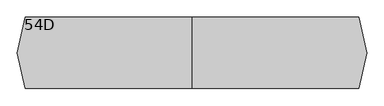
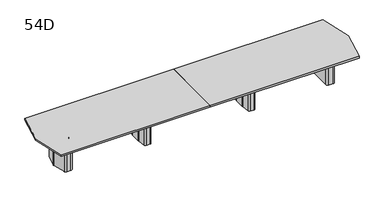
"""IFC4 building model written with IfcOpenShell, lengths in millimetres: furniture geometry, Coalesse_AM_Table_Conference_ETable2_Faceted_22ft_FourBase : 54D."""

from ifc_helpers import new_model, si_unit, frame, origin, place, context, project, spatial, polyline, circle_curve, outline, extrude, source, transform, mapped, element, save
from ifc_brep_helpers import plane_surface, cylinder_surface, revolved_surface, advanced_brep


def furniture_54d_4388903f(model_context):
    return source(origin(), model_context, "Body", "SolidModel", [
        advanced_brep(
        [(1153.31875, 206.375, 3.175), (1127.91875, 231.775, 3.175), (1107.28125, 231.775, 3.175), (1081.88125, 206.375, 3.175), (1081.88125, -206.375, 3.175), (1107.28125, -231.775, 3.175), (1127.91875, -231.775, 3.175), (1153.31875, -206.375, 3.175), (1056.48125, 206.375, 0.0), (1107.28125, 257.175, 0.0), (1127.91875, 257.175, 0.0), (1178.71875, 206.375, 0.0), (1178.71875, -206.375, 0.0), (1127.91875, -257.175, 0.0), (1107.28125, -257.175, 0.0), (1056.48125, -206.375, 0.0), (1056.48125, -206.375, 3.175), (1056.48125, 206.375, 3.175), (1107.28125, -257.175, 3.175), (1127.91875, -257.175, 3.175), (1178.71875, -206.375, 3.175), (1178.71875, 206.375, 3.175), (1127.91875, 257.175, 3.175), (1107.28125, 257.175, 3.175), (1024.9784026, 106.2976848, 698.5), (1024.73125, 102.7629613, 698.5), (1024.73125, -102.7629613, 698.5), (1024.9784026, -106.2976848, 698.5), (1049.8011625, -282.9347235, 698.5), (1074.9540098, -304.8, 698.5), (1160.2459902, -304.8, 698.5), (1185.3988375, -282.9347235, 698.5), (1210.2215974, -106.2976848, 698.5), (1210.46875, -102.7629613, 698.5), (1210.46875, 102.7629613, 698.5), (1210.2215974, 106.2976848, 698.5), (1185.3988375, 282.9347235, 698.5), (1160.2459902, 304.8, 698.5), (1074.9540098, 304.8, 698.5), (1049.8011625, 282.9347235, 698.5), (1127.91875, 231.775, 698.5), (1153.31875, 206.375, 698.5), (1153.31875, -206.375, 698.5), (1127.91875, -231.775, 698.5), (1107.28125, -231.775, 698.5), (1081.88125, -206.375, 698.5), (1081.88125, 206.375, 698.5), (1107.28125, 231.775, 698.5), (1024.9784026, 106.2976848, 3.175), (1049.8011625, 282.9347235, 3.175), (1074.9540098, 304.8, 3.175), (1160.2459902, 304.8, 3.175), (1185.3988375, 282.9347235, 3.175), (1210.2215974, 106.2976848, 3.175), (1210.46875, 102.7629613, 3.175), (1210.46875, -102.7629613, 3.175), (1210.2215974, -106.2976848, 3.175), (1185.3988375, -282.9347235, 3.175), (1160.2459902, -304.8, 3.175), (1074.9540098, -304.8, 3.175), (1049.8011625, -282.9347235, 3.175), (1024.9784026, -106.2976848, 3.175), (1024.73125, -102.7629613, 3.175), (1024.73125, 102.7629613, 3.175)],
        [
            (0, 1, circle_curve(frame((1127.91875, 206.375, 3.175), z_axis=(0.0, 0.0, 1.0), x_axis=(1.0, 0.0, 0.0)), 25.4)),
            (1, 2),
            (2, 3, circle_curve(frame((1107.28125, 206.375, 3.175), z_axis=(0.0, 0.0, 1.0), x_axis=(1.0, 0.0, 0.0)), 25.4)),
            (3, 4),
            (4, 5, circle_curve(frame((1107.28125, -206.375, 3.175), z_axis=(0.0, 0.0, 1.0), x_axis=(1.0, 0.0, 0.0)), 25.4)),
            (5, 6),
            (6, 7, circle_curve(frame((1127.91875, -206.375, 3.175), z_axis=(0.0, 0.0, 1.0), x_axis=(1.0, 0.0, 0.0)), 25.4)),
            (7, 0),
            (8, 9, circle_curve(frame((1107.28125, 206.375, 0.0), z_axis=(0.0, 0.0, -1.0), x_axis=(1.0, 0.0, 0.0)), 50.8)),
            (9, 10),
            (10, 11, circle_curve(frame((1127.91875, 206.375, 0.0), z_axis=(0.0, 0.0, -1.0), x_axis=(1.0, 0.0, 0.0)), 50.8)),
            (11, 12),
            (12, 13, circle_curve(frame((1127.91875, -206.375, 0.0), z_axis=(0.0, 0.0, -1.0), x_axis=(1.0, 0.0, 0.0)), 50.8)),
            (13, 14),
            (14, 15, circle_curve(frame((1107.28125, -206.375, 0.0), z_axis=(0.0, 0.0, -1.0), x_axis=(1.0, 0.0, 0.0)), 50.8)),
            (15, 8),
            (15, 16),
            (16, 17),
            (17, 8),
            (14, 18),
            (18, 16, circle_curve(frame((1107.28125, -206.375, 3.175), z_axis=(0.0, 0.0, -1.0), x_axis=(1.0, 0.0, 0.0)), 50.8)),
            (13, 19),
            (19, 18),
            (12, 20),
            (20, 19, circle_curve(frame((1127.91875, -206.375, 3.175), z_axis=(0.0, 0.0, -1.0), x_axis=(1.0, 0.0, 0.0)), 50.8)),
            (11, 21),
            (21, 20),
            (10, 22),
            (22, 21, circle_curve(frame((1127.91875, 206.375, 3.175), z_axis=(0.0, 0.0, -1.0), x_axis=(1.0, 0.0, 0.0)), 50.8)),
            (9, 23),
            (23, 22),
            (17, 23, circle_curve(frame((1107.28125, 206.375, 3.175), z_axis=(0.0, 0.0, -1.0), x_axis=(1.0, 0.0, 0.0)), 50.8)),
            (24, 25, circle_curve(frame((1050.13125, 102.7629613, 698.5), z_axis=(0.0, 0.0, 1.0), x_axis=(1.0, 0.0, 0.0)), 25.4)),
            (25, 26),
            (26, 27, circle_curve(frame((1050.13125, -102.7629613, 698.5), z_axis=(0.0, 0.0, 1.0), x_axis=(1.0, 0.0, 0.0)), 25.4)),
            (27, 28),
            (28, 29, circle_curve(frame((1074.9540098, -279.4, 698.5), z_axis=(0.0, 0.0, 1.0), x_axis=(1.0, 0.0, 0.0)), 25.4)),
            (29, 30),
            (30, 31, circle_curve(frame((1160.2459902, -279.4, 698.5), z_axis=(0.0, 0.0, 1.0), x_axis=(1.0, 0.0, 0.0)), 25.4)),
            (31, 32),
            (32, 33, circle_curve(frame((1185.06875, -102.7629613, 698.5), z_axis=(0.0, 0.0, 1.0), x_axis=(1.0, 0.0, 0.0)), 25.4)),
            (33, 34),
            (34, 35, circle_curve(frame((1185.06875, 102.7629613, 698.5), z_axis=(0.0, 0.0, 1.0), x_axis=(1.0, 0.0, 0.0)), 25.4)),
            (35, 36),
            (36, 37, circle_curve(frame((1160.2459902, 279.4, 698.5), z_axis=(0.0, 0.0, 1.0), x_axis=(1.0, 0.0, 0.0)), 25.4)),
            (37, 38),
            (38, 39, circle_curve(frame((1074.9540098, 279.4, 698.5), z_axis=(0.0, 0.0, 1.0), x_axis=(1.0, 0.0, 0.0)), 25.4)),
            (39, 24),
            (40, 41, circle_curve(frame((1127.91875, 206.375, 698.5), z_axis=(0.0, 0.0, -1.0), x_axis=(1.0, 0.0, 0.0)), 25.4)),
            (41, 42),
            (42, 43, circle_curve(frame((1127.91875, -206.375, 698.5), z_axis=(0.0, 0.0, -1.0), x_axis=(1.0, 0.0, 0.0)), 25.4)),
            (43, 44),
            (44, 45, circle_curve(frame((1107.28125, -206.375, 698.5), z_axis=(0.0, 0.0, -1.0), x_axis=(1.0, 0.0, 0.0)), 25.4)),
            (45, 46),
            (46, 47, circle_curve(frame((1107.28125, 206.375, 698.5), z_axis=(0.0, 0.0, -1.0), x_axis=(1.0, 0.0, 0.0)), 25.4)),
            (47, 40),
            (48, 49),
            (49, 50, circle_curve(frame((1074.9540098, 279.4, 3.175), z_axis=(0.0, 0.0, -1.0), x_axis=(1.0, 0.0, 0.0)), 25.4)),
            (50, 51),
            (51, 52, circle_curve(frame((1160.2459902, 279.4, 3.175), z_axis=(0.0, 0.0, -1.0), x_axis=(1.0, 0.0, 0.0)), 25.4)),
            (52, 53),
            (53, 54, circle_curve(frame((1185.06875, 102.7629613, 3.175), z_axis=(0.0, 0.0, -1.0), x_axis=(1.0, 0.0, 0.0)), 25.4)),
            (54, 55),
            (55, 56, circle_curve(frame((1185.06875, -102.7629613, 3.175), z_axis=(0.0, 0.0, -1.0), x_axis=(1.0, 0.0, 0.0)), 25.4)),
            (56, 57),
            (57, 58, circle_curve(frame((1160.2459902, -279.4, 3.175), z_axis=(0.0, 0.0, -1.0), x_axis=(1.0, 0.0, 0.0)), 25.4)),
            (58, 59),
            (59, 60, circle_curve(frame((1074.9540098, -279.4, 3.175), z_axis=(0.0, 0.0, -1.0), x_axis=(1.0, 0.0, 0.0)), 25.4)),
            (60, 61),
            (61, 62, circle_curve(frame((1050.13125, -102.7629613, 3.175), z_axis=(0.0, 0.0, -1.0), x_axis=(1.0, 0.0, 0.0)), 25.4)),
            (62, 63),
            (63, 48, circle_curve(frame((1050.13125, 102.7629613, 3.175), z_axis=(0.0, 0.0, -1.0), x_axis=(1.0, 0.0, 0.0)), 25.4)),
            (24, 48),
            (63, 25),
            (62, 26),
            (61, 27),
            (60, 28),
            (59, 29),
            (58, 30),
            (57, 31),
            (56, 32),
            (55, 33),
            (54, 34),
            (53, 35),
            (52, 36),
            (51, 37),
            (50, 38),
            (49, 39),
            (40, 1),
            (0, 41),
            (7, 42),
            (6, 43),
            (5, 44),
            (4, 45),
            (3, 46),
            (2, 47),
        ],
        [
            plane_surface(frame((1056.48125, -206.375, 3.175), z_axis=(0.0, 0.0, 1.0), x_axis=(0.0, -1.0, 0.0))),
            plane_surface(frame((1056.48125, -206.375, 0.0), z_axis=(0.0, 0.0, -1.0), x_axis=(0.0, 1.0, 0.0))),
            plane_surface(frame((1056.48125, 206.375, 3.175), z_axis=(-1.0, 0.0, 0.0), x_axis=(0.0, 0.0, -1.0))),
            cylinder_surface(frame((1107.28125, -206.375, 0.0), z_axis=(0.0, 0.0, 1.0), x_axis=(1.0, 0.0, 0.0)), 50.8),
            plane_surface(frame((1107.28125, -257.175, 3.175), z_axis=(0.0, -1.0, 0.0), x_axis=(0.0, 0.0, -1.0))),
            cylinder_surface(frame((1127.91875, -206.375, 0.0), z_axis=(0.0, 0.0, 1.0), x_axis=(1.0, 0.0, 0.0)), 50.8),
            plane_surface(frame((1178.71875, -206.375, 3.175), z_axis=(1.0, 0.0, 0.0), x_axis=(0.0, 0.0, -1.0))),
            cylinder_surface(frame((1127.91875, 206.375, 0.0), z_axis=(0.0, 0.0, 1.0), x_axis=(1.0, 0.0, 0.0)), 50.8),
            plane_surface(frame((1127.91875, 257.175, 3.175), z_axis=(0.0, 1.0, 0.0), x_axis=(0.0, 0.0, -1.0))),
            cylinder_surface(frame((1107.28125, 206.375, 0.0), z_axis=(0.0, 0.0, 1.0), x_axis=(1.0, 0.0, 0.0)), 50.8),
            plane_surface(frame((1075.53125, 102.7629613, 698.5), z_axis=(0.0, 0.0, 1.0), x_axis=(0.0, 1.0, 0.0))),
            plane_surface(frame((1075.53125, 102.7629613, 3.175), z_axis=(0.0, 0.0, -1.0), x_axis=(0.0, -1.0, 0.0))),
            cylinder_surface(frame((1050.13125, 102.7629613, 3.175), z_axis=(0.0, 0.0, 1.0), x_axis=(1.0, 0.0, 0.0)), 25.4),
            plane_surface(frame((1024.73125, 102.7629613, 698.5), z_axis=(-1.0, 0.0, 0.0), x_axis=(0.0, 0.0, -1.0))),
            cylinder_surface(frame((1050.13125, -102.7629613, 3.175), z_axis=(0.0, 0.0, 1.0), x_axis=(1.0, 0.0, 0.0)), 25.4),
            plane_surface(frame((1024.9784026, -106.2976848, 698.5), z_axis=(-0.9902695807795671, -0.13916234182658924, 0.0), x_axis=(0.0, 0.0, -1.0))),
            cylinder_surface(frame((1074.9540098, -279.4, 3.175), z_axis=(0.0, 0.0, 1.0), x_axis=(1.0, 0.0, 0.0)), 25.4),
            plane_surface(frame((1074.9540098, -304.8, 698.5), z_axis=(0.0, -1.0, 0.0), x_axis=(0.0, 0.0, -1.0))),
            cylinder_surface(frame((1160.2459902, -279.4, 3.175), z_axis=(0.0, 0.0, 1.0), x_axis=(1.0, 0.0, 0.0)), 25.4),
            plane_surface(frame((1185.3988375, -282.9347235, 698.5), z_axis=(0.9902695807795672, -0.13916234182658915, 0.0), x_axis=(0.0, 0.0, -1.0))),
            cylinder_surface(frame((1185.06875, -102.7629613, 3.175), z_axis=(0.0, 0.0, 1.0), x_axis=(1.0, 0.0, 0.0)), 25.4),
            plane_surface(frame((1210.46875, -102.7629613, 698.5), z_axis=(1.0, 0.0, 0.0), x_axis=(0.0, 0.0, -1.0))),
            cylinder_surface(frame((1185.06875, 102.7629613, 3.175), z_axis=(0.0, 0.0, 1.0), x_axis=(1.0, 0.0, 0.0)), 25.4),
            plane_surface(frame((1210.2215974, 106.2976848, 698.5), z_axis=(0.9902695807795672, 0.1391623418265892, 0.0), x_axis=(0.0, 0.0, -1.0))),
            cylinder_surface(frame((1160.2459902, 279.4, 3.175), z_axis=(0.0, 0.0, 1.0), x_axis=(1.0, 0.0, 0.0)), 25.4),
            plane_surface(frame((1160.2459902, 304.8, 698.5), z_axis=(0.0, 1.0, 0.0), x_axis=(0.0, 0.0, -1.0))),
            cylinder_surface(frame((1074.9540098, 279.4, 3.175), z_axis=(0.0, 0.0, 1.0), x_axis=(1.0, 0.0, 0.0)), 25.4),
            plane_surface(frame((1049.8011625, 282.9347235, 698.5), z_axis=(-0.9902695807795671, 0.13916234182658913, 0.0), x_axis=(0.0, 0.0, -1.0))),
            revolved_surface(polyline([(1153.3187500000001, 206.375, 3.175), (1153.3187500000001, 206.375, 698.5)]), (1127.91875, 206.375, 0.0), (0.0, 0.0, -1.0)),
            plane_surface(frame((1153.31875, 206.375, 698.5), z_axis=(-1.0, 0.0, 0.0), x_axis=(0.0, 0.0, -1.0))),
            revolved_surface(polyline([(1153.3187500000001, -206.375, 3.175), (1153.3187500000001, -206.375, 698.5)]), (1127.91875, -206.375, 0.0), (0.0, 0.0, -1.0)),
            plane_surface(frame((1127.91875, -231.775, 698.5), z_axis=(0.0, 1.0, 0.0), x_axis=(0.0, 0.0, -1.0))),
            revolved_surface(polyline([(1132.68125, -206.375, 3.175), (1132.68125, -206.375, 698.5)]), (1107.28125, -206.375, 0.0), (0.0, 0.0, -1.0)),
            plane_surface(frame((1081.88125, -206.375, 698.5), z_axis=(1.0, 0.0, 0.0), x_axis=(0.0, 0.0, -1.0))),
            revolved_surface(polyline([(1132.68125, 206.375, 3.175), (1132.68125, 206.375, 698.5)]), (1107.28125, 206.375, 0.0), (0.0, 0.0, -1.0)),
            plane_surface(frame((1107.28125, 231.775, 698.5), z_axis=(0.0, -1.0, 0.0), x_axis=(0.0, 0.0, -1.0))),
        ],
        [
            (0, [[1, 2, 3, 4, 5, 6, 7, 8]]),
            (1, [[9, 10, 11, 12, 13, 14, 15, 16]]),
            (2, [[-16, 17, 18, 19]]),
            (3, [[-15, 20, 21, -17]]),
            (4, [[-14, 22, 23, -20]]),
            (5, [[-13, 24, 25, -22]]),
            (6, [[-12, 26, 27, -24]]),
            (7, [[-11, 28, 29, -26]]),
            (8, [[-10, 30, 31, -28]]),
            (9, [[-9, -19, 32, -30]]),
            (10, [[33, 34, 35, 36, 37, 38, 39, 40, 41, 42, 43, 44, 45, 46, 47, 48], [49, 50, 51, 52, 53, 54, 55, 56]]),
            (11, [[57, 58, 59, 60, 61, 62, 63, 64, 65, 66, 67, 68, 69, 70, 71, 72], [-18, -21, -23, -25, -27, -29, -31, -32]]),
            (12, [[-33, 73, -72, 74]]),
            (13, [[-34, -74, -71, 75]]),
            (14, [[-35, -75, -70, 76]]),
            (15, [[-36, -76, -69, 77]]),
            (16, [[-37, -77, -68, 78]]),
            (17, [[-38, -78, -67, 79]]),
            (18, [[-39, -79, -66, 80]]),
            (19, [[-40, -80, -65, 81]]),
            (20, [[-41, -81, -64, 82]]),
            (21, [[-42, -82, -63, 83]]),
            (22, [[-43, -83, -62, 84]]),
            (23, [[-44, -84, -61, 85]]),
            (24, [[-45, -85, -60, 86]]),
            (25, [[-46, -86, -59, 87]]),
            (26, [[-47, -87, -58, 88]]),
            (27, [[-48, -88, -57, -73]]),
            (28, [[-49, 89, -1, 90]]),
            (29, [[-50, -90, -8, 91]]),
            (30, [[-51, -91, -7, 92]]),
            (31, [[-52, -92, -6, 93]]),
            (32, [[-53, -93, -5, 94]]),
            (33, [[-54, -94, -4, 95]]),
            (34, [[-55, -95, -3, 96]]),
            (35, [[-56, -96, -2, -89]]),
        ],
    ),
        advanced_brep(
        [(-1081.88125, 206.375, 3.175), (-1107.28125, 231.775, 3.175), (-1127.91875, 231.775, 3.175), (-1153.31875, 206.375, 3.175), (-1153.31875, -206.375, 3.175), (-1127.91875, -231.775, 3.175), (-1107.28125, -231.775, 3.175), (-1081.88125, -206.375, 3.175), (-1178.71875, 206.375, 0.0), (-1127.91875, 257.175, 0.0), (-1107.28125, 257.175, 0.0), (-1056.48125, 206.375, 0.0), (-1056.48125, -206.375, 0.0), (-1107.28125, -257.175, 0.0), (-1127.91875, -257.175, 0.0), (-1178.71875, -206.375, 0.0), (-1178.71875, -206.375, 3.175), (-1178.71875, 206.375, 3.175), (-1127.91875, -257.175, 3.175), (-1107.28125, -257.175, 3.175), (-1056.48125, -206.375, 3.175), (-1056.48125, 206.375, 3.175), (-1107.28125, 257.175, 3.175), (-1127.91875, 257.175, 3.175), (-1210.2215974, 106.2976848, 698.5), (-1210.46875, 102.7629613, 698.5), (-1210.46875, -102.7629613, 698.5), (-1210.2215974, -106.2976848, 698.5), (-1185.3988375, -282.9347235, 698.5), (-1160.2459902, -304.8, 698.5), (-1074.9540098, -304.8, 698.5), (-1049.8011625, -282.9347235, 698.5), (-1024.9784026, -106.2976848, 698.5), (-1024.73125, -102.7629613, 698.5), (-1024.73125, 102.7629613, 698.5), (-1024.9784026, 106.2976848, 698.5), (-1049.8011625, 282.9347235, 698.5), (-1074.9540098, 304.8, 698.5), (-1160.2459902, 304.8, 698.5), (-1185.3988375, 282.9347235, 698.5), (-1107.28125, 231.775, 698.5), (-1081.88125, 206.375, 698.5), (-1081.88125, -206.375, 698.5), (-1107.28125, -231.775, 698.5), (-1127.91875, -231.775, 698.5), (-1153.31875, -206.375, 698.5), (-1153.31875, 206.375, 698.5), (-1127.91875, 231.775, 698.5), (-1210.2215974, 106.2976848, 3.175), (-1185.3988375, 282.9347235, 3.175), (-1160.2459902, 304.8, 3.175), (-1074.9540098, 304.8, 3.175), (-1049.8011625, 282.9347235, 3.175), (-1024.9784026, 106.2976848, 3.175), (-1024.73125, 102.7629613, 3.175), (-1024.73125, -102.7629613, 3.175), (-1024.9784026, -106.2976848, 3.175), (-1049.8011625, -282.9347235, 3.175), (-1074.9540098, -304.8, 3.175), (-1160.2459902, -304.8, 3.175), (-1185.3988375, -282.9347235, 3.175), (-1210.2215974, -106.2976848, 3.175), (-1210.46875, -102.7629613, 3.175), (-1210.46875, 102.7629613, 3.175)],
        [
            (0, 1, circle_curve(frame((-1107.28125, 206.375, 3.175), z_axis=(0.0, 0.0, 1.0), x_axis=(1.0, 0.0, 0.0)), 25.4)),
            (1, 2),
            (2, 3, circle_curve(frame((-1127.91875, 206.375, 3.175), z_axis=(0.0, 0.0, 1.0), x_axis=(1.0, 0.0, 0.0)), 25.4)),
            (3, 4),
            (4, 5, circle_curve(frame((-1127.91875, -206.375, 3.175), z_axis=(0.0, 0.0, 1.0), x_axis=(1.0, 0.0, 0.0)), 25.4)),
            (5, 6),
            (6, 7, circle_curve(frame((-1107.28125, -206.375, 3.175), z_axis=(0.0, 0.0, 1.0), x_axis=(1.0, 0.0, 0.0)), 25.4)),
            (7, 0),
            (8, 9, circle_curve(frame((-1127.91875, 206.375, 0.0), z_axis=(0.0, 0.0, -1.0), x_axis=(1.0, 0.0, 0.0)), 50.8)),
            (9, 10),
            (10, 11, circle_curve(frame((-1107.28125, 206.375, 0.0), z_axis=(0.0, 0.0, -1.0), x_axis=(1.0, 0.0, 0.0)), 50.8)),
            (11, 12),
            (12, 13, circle_curve(frame((-1107.28125, -206.375, 0.0), z_axis=(0.0, 0.0, -1.0), x_axis=(1.0, 0.0, 0.0)), 50.8)),
            (13, 14),
            (14, 15, circle_curve(frame((-1127.91875, -206.375, 0.0), z_axis=(0.0, 0.0, -1.0), x_axis=(1.0, 0.0, 0.0)), 50.8)),
            (15, 8),
            (15, 16),
            (16, 17),
            (17, 8),
            (14, 18),
            (18, 16, circle_curve(frame((-1127.91875, -206.375, 3.175), z_axis=(0.0, 0.0, -1.0), x_axis=(1.0, 0.0, 0.0)), 50.8)),
            (13, 19),
            (19, 18),
            (12, 20),
            (20, 19, circle_curve(frame((-1107.28125, -206.375, 3.175), z_axis=(0.0, 0.0, -1.0), x_axis=(1.0, 0.0, 0.0)), 50.8)),
            (11, 21),
            (21, 20),
            (10, 22),
            (22, 21, circle_curve(frame((-1107.28125, 206.375, 3.175), z_axis=(0.0, 0.0, -1.0), x_axis=(1.0, 0.0, 0.0)), 50.8)),
            (9, 23),
            (23, 22),
            (17, 23, circle_curve(frame((-1127.91875, 206.375, 3.175), z_axis=(0.0, 0.0, -1.0), x_axis=(1.0, 0.0, 0.0)), 50.8)),
            (24, 25, circle_curve(frame((-1185.06875, 102.7629613, 698.5), z_axis=(0.0, 0.0, 1.0), x_axis=(1.0, 0.0, 0.0)), 25.4)),
            (25, 26),
            (26, 27, circle_curve(frame((-1185.06875, -102.7629613, 698.5), z_axis=(0.0, 0.0, 1.0), x_axis=(1.0, 0.0, 0.0)), 25.4)),
            (27, 28),
            (28, 29, circle_curve(frame((-1160.2459902, -279.4, 698.5), z_axis=(0.0, 0.0, 1.0), x_axis=(1.0, 0.0, 0.0)), 25.4)),
            (29, 30),
            (30, 31, circle_curve(frame((-1074.9540098, -279.4, 698.5), z_axis=(0.0, 0.0, 1.0), x_axis=(1.0, 0.0, 0.0)), 25.4)),
            (31, 32),
            (32, 33, circle_curve(frame((-1050.13125, -102.7629613, 698.5), z_axis=(0.0, 0.0, 1.0), x_axis=(1.0, 0.0, 0.0)), 25.4)),
            (33, 34),
            (34, 35, circle_curve(frame((-1050.13125, 102.7629613, 698.5), z_axis=(0.0, 0.0, 1.0), x_axis=(1.0, 0.0, 0.0)), 25.4)),
            (35, 36),
            (36, 37, circle_curve(frame((-1074.9540098, 279.4, 698.5), z_axis=(0.0, 0.0, 1.0), x_axis=(1.0, 0.0, 0.0)), 25.4)),
            (37, 38),
            (38, 39, circle_curve(frame((-1160.2459902, 279.4, 698.5), z_axis=(0.0, 0.0, 1.0), x_axis=(1.0, 0.0, 0.0)), 25.4)),
            (39, 24),
            (40, 41, circle_curve(frame((-1107.28125, 206.375, 698.5), z_axis=(0.0, 0.0, -1.0), x_axis=(1.0, 0.0, 0.0)), 25.4)),
            (41, 42),
            (42, 43, circle_curve(frame((-1107.28125, -206.375, 698.5), z_axis=(0.0, 0.0, -1.0), x_axis=(1.0, 0.0, 0.0)), 25.4)),
            (43, 44),
            (44, 45, circle_curve(frame((-1127.91875, -206.375, 698.5), z_axis=(0.0, 0.0, -1.0), x_axis=(1.0, 0.0, 0.0)), 25.4)),
            (45, 46),
            (46, 47, circle_curve(frame((-1127.91875, 206.375, 698.5), z_axis=(0.0, 0.0, -1.0), x_axis=(1.0, 0.0, 0.0)), 25.4)),
            (47, 40),
            (48, 49),
            (49, 50, circle_curve(frame((-1160.2459902, 279.4, 3.175), z_axis=(0.0, 0.0, -1.0), x_axis=(1.0, 0.0, 0.0)), 25.4)),
            (50, 51),
            (51, 52, circle_curve(frame((-1074.9540098, 279.4, 3.175), z_axis=(0.0, 0.0, -1.0), x_axis=(1.0, 0.0, 0.0)), 25.4)),
            (52, 53),
            (53, 54, circle_curve(frame((-1050.13125, 102.7629613, 3.175), z_axis=(0.0, 0.0, -1.0), x_axis=(1.0, 0.0, 0.0)), 25.4)),
            (54, 55),
            (55, 56, circle_curve(frame((-1050.13125, -102.7629613, 3.175), z_axis=(0.0, 0.0, -1.0), x_axis=(1.0, 0.0, 0.0)), 25.4)),
            (56, 57),
            (57, 58, circle_curve(frame((-1074.9540098, -279.4, 3.175), z_axis=(0.0, 0.0, -1.0), x_axis=(1.0, 0.0, 0.0)), 25.4)),
            (58, 59),
            (59, 60, circle_curve(frame((-1160.2459902, -279.4, 3.175), z_axis=(0.0, 0.0, -1.0), x_axis=(1.0, 0.0, 0.0)), 25.4)),
            (60, 61),
            (61, 62, circle_curve(frame((-1185.06875, -102.7629613, 3.175), z_axis=(0.0, 0.0, -1.0), x_axis=(1.0, 0.0, 0.0)), 25.4)),
            (62, 63),
            (63, 48, circle_curve(frame((-1185.06875, 102.7629613, 3.175), z_axis=(0.0, 0.0, -1.0), x_axis=(1.0, 0.0, 0.0)), 25.4)),
            (24, 48),
            (63, 25),
            (62, 26),
            (61, 27),
            (60, 28),
            (59, 29),
            (58, 30),
            (57, 31),
            (56, 32),
            (55, 33),
            (54, 34),
            (53, 35),
            (52, 36),
            (51, 37),
            (50, 38),
            (49, 39),
            (40, 1),
            (0, 41),
            (7, 42),
            (6, 43),
            (5, 44),
            (4, 45),
            (3, 46),
            (2, 47),
        ],
        [
            plane_surface(frame((-1178.71875, -206.375, 3.175), z_axis=(0.0, 0.0, 1.0), x_axis=(0.0, -1.0, 0.0))),
            plane_surface(frame((-1178.71875, -206.375, 0.0), z_axis=(0.0, 0.0, -1.0), x_axis=(0.0, 1.0, 0.0))),
            plane_surface(frame((-1178.71875, 206.375, 3.175), z_axis=(-1.0, 0.0, 0.0), x_axis=(0.0, 0.0, -1.0))),
            cylinder_surface(frame((-1127.91875, -206.375, 0.0), z_axis=(0.0, 0.0, 1.0), x_axis=(1.0, 0.0, 0.0)), 50.8),
            plane_surface(frame((-1127.91875, -257.175, 3.175), z_axis=(0.0, -1.0, 0.0), x_axis=(0.0, 0.0, -1.0))),
            cylinder_surface(frame((-1107.28125, -206.375, 0.0), z_axis=(0.0, 0.0, 1.0), x_axis=(1.0, 0.0, 0.0)), 50.8),
            plane_surface(frame((-1056.48125, -206.375, 3.175), z_axis=(1.0, 0.0, 0.0), x_axis=(0.0, 0.0, -1.0))),
            cylinder_surface(frame((-1107.28125, 206.375, 0.0), z_axis=(0.0, 0.0, 1.0), x_axis=(1.0, 0.0, 0.0)), 50.8),
            plane_surface(frame((-1107.28125, 257.175, 3.175), z_axis=(0.0, 1.0, 0.0), x_axis=(0.0, 0.0, -1.0))),
            cylinder_surface(frame((-1127.91875, 206.375, 0.0), z_axis=(0.0, 0.0, 1.0), x_axis=(1.0, 0.0, 0.0)), 50.8),
            plane_surface(frame((-1159.66875, 102.7629613, 698.5), z_axis=(0.0, 0.0, 1.0), x_axis=(0.0, 1.0, 0.0))),
            plane_surface(frame((-1159.66875, 102.7629613, 3.175), z_axis=(0.0, 0.0, -1.0), x_axis=(0.0, -1.0, 0.0))),
            cylinder_surface(frame((-1185.06875, 102.7629613, 3.175), z_axis=(0.0, 0.0, 1.0), x_axis=(1.0, 0.0, 0.0)), 25.4),
            plane_surface(frame((-1210.46875, 102.7629613, 698.5), z_axis=(-1.0, 0.0, 0.0), x_axis=(0.0, 0.0, -1.0))),
            cylinder_surface(frame((-1185.06875, -102.7629613, 3.175), z_axis=(0.0, 0.0, 1.0), x_axis=(1.0, 0.0, 0.0)), 25.4),
            plane_surface(frame((-1210.2215974, -106.2976848, 698.5), z_axis=(-0.9902695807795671, -0.13916234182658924, 0.0), x_axis=(0.0, 0.0, -1.0))),
            cylinder_surface(frame((-1160.2459902, -279.4, 3.175), z_axis=(0.0, 0.0, 1.0), x_axis=(1.0, 0.0, 0.0)), 25.4),
            plane_surface(frame((-1160.2459902, -304.8, 698.5), z_axis=(0.0, -1.0, 0.0), x_axis=(0.0, 0.0, -1.0))),
            cylinder_surface(frame((-1074.9540098, -279.4, 3.175), z_axis=(0.0, 0.0, 1.0), x_axis=(1.0, 0.0, 0.0)), 25.4),
            plane_surface(frame((-1049.8011625, -282.9347235, 698.5), z_axis=(0.9902695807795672, -0.13916234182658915, 0.0), x_axis=(0.0, 0.0, -1.0))),
            cylinder_surface(frame((-1050.13125, -102.7629613, 3.175), z_axis=(0.0, 0.0, 1.0), x_axis=(1.0, 0.0, 0.0)), 25.4),
            plane_surface(frame((-1024.73125, -102.7629613, 698.5), z_axis=(1.0, 0.0, 0.0), x_axis=(0.0, 0.0, -1.0))),
            cylinder_surface(frame((-1050.13125, 102.7629613, 3.175), z_axis=(0.0, 0.0, 1.0), x_axis=(1.0, 0.0, 0.0)), 25.4),
            plane_surface(frame((-1024.9784026, 106.2976848, 698.5), z_axis=(0.9902695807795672, 0.1391623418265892, 0.0), x_axis=(0.0, 0.0, -1.0))),
            cylinder_surface(frame((-1074.9540098, 279.4, 3.175), z_axis=(0.0, 0.0, 1.0), x_axis=(1.0, 0.0, 0.0)), 25.4),
            plane_surface(frame((-1074.9540098, 304.8, 698.5), z_axis=(0.0, 1.0, 0.0), x_axis=(0.0, 0.0, -1.0))),
            cylinder_surface(frame((-1160.2459902, 279.4, 3.175), z_axis=(0.0, 0.0, 1.0), x_axis=(1.0, 0.0, 0.0)), 25.4),
            plane_surface(frame((-1185.3988375, 282.9347235, 698.5), z_axis=(-0.9902695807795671, 0.13916234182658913, 0.0), x_axis=(0.0, 0.0, -1.0))),
            revolved_surface(polyline([(-1081.88125, 206.375, 3.175), (-1081.88125, 206.375, 698.5)]), (-1107.28125, 206.375, 0.0), (0.0, 0.0, -1.0)),
            plane_surface(frame((-1081.88125, 206.375, 698.5), z_axis=(-1.0, 0.0, 0.0), x_axis=(0.0, 0.0, -1.0))),
            revolved_surface(polyline([(-1081.88125, -206.375, 3.175), (-1081.88125, -206.375, 698.5)]), (-1107.28125, -206.375, 0.0), (0.0, 0.0, -1.0)),
            plane_surface(frame((-1107.28125, -231.775, 698.5), z_axis=(0.0, 1.0, 0.0), x_axis=(0.0, 0.0, -1.0))),
            revolved_surface(polyline([(-1102.51875, -206.375, 3.175), (-1102.51875, -206.375, 698.5)]), (-1127.91875, -206.375, 0.0), (0.0, 0.0, -1.0)),
            plane_surface(frame((-1153.31875, -206.375, 698.5), z_axis=(1.0, 0.0, 0.0), x_axis=(0.0, 0.0, -1.0))),
            revolved_surface(polyline([(-1102.51875, 206.375, 3.175), (-1102.51875, 206.375, 698.5)]), (-1127.91875, 206.375, 0.0), (0.0, 0.0, -1.0)),
            plane_surface(frame((-1127.91875, 231.775, 698.5), z_axis=(0.0, -1.0, 0.0), x_axis=(0.0, 0.0, -1.0))),
        ],
        [
            (0, [[1, 2, 3, 4, 5, 6, 7, 8]]),
            (1, [[9, 10, 11, 12, 13, 14, 15, 16]]),
            (2, [[-16, 17, 18, 19]]),
            (3, [[-15, 20, 21, -17]]),
            (4, [[-14, 22, 23, -20]]),
            (5, [[-13, 24, 25, -22]]),
            (6, [[-12, 26, 27, -24]]),
            (7, [[-11, 28, 29, -26]]),
            (8, [[-10, 30, 31, -28]]),
            (9, [[-9, -19, 32, -30]]),
            (10, [[33, 34, 35, 36, 37, 38, 39, 40, 41, 42, 43, 44, 45, 46, 47, 48], [49, 50, 51, 52, 53, 54, 55, 56]]),
            (11, [[57, 58, 59, 60, 61, 62, 63, 64, 65, 66, 67, 68, 69, 70, 71, 72], [-18, -21, -23, -25, -27, -29, -31, -32]]),
            (12, [[-33, 73, -72, 74]]),
            (13, [[-34, -74, -71, 75]]),
            (14, [[-35, -75, -70, 76]]),
            (15, [[-36, -76, -69, 77]]),
            (16, [[-37, -77, -68, 78]]),
            (17, [[-38, -78, -67, 79]]),
            (18, [[-39, -79, -66, 80]]),
            (19, [[-40, -80, -65, 81]]),
            (20, [[-41, -81, -64, 82]]),
            (21, [[-42, -82, -63, 83]]),
            (22, [[-43, -83, -62, 84]]),
            (23, [[-44, -84, -61, 85]]),
            (24, [[-45, -85, -60, 86]]),
            (25, [[-46, -86, -59, 87]]),
            (26, [[-47, -87, -58, 88]]),
            (27, [[-48, -88, -57, -73]]),
            (28, [[-49, 89, -1, 90]]),
            (29, [[-50, -90, -8, 91]]),
            (30, [[-51, -91, -7, 92]]),
            (31, [[-52, -92, -6, 93]]),
            (32, [[-53, -93, -5, 94]]),
            (33, [[-54, -94, -4, 95]]),
            (34, [[-55, -95, -3, 96]]),
            (35, [[-56, -96, -2, -89]]),
        ],
    ),
        advanced_brep(
        [(2894.224548, 274.2093613, 698.5), (2854.3579246, 304.8, 698.5), (2765.425, 304.8, 698.5), (2724.15, 263.525, 698.5), (2724.15, -263.525, 698.5), (2765.425, -304.8, 698.5), (2854.3579246, -304.8, 698.5), (2894.224548, -274.2093613, 698.5), (2964.8503901, -10.6333708, 698.5), (2964.8503901, 10.6333708, 698.5), (2762.25, -206.375, 698.5), (2762.25, 206.375, 698.5), (2787.65, 231.775, 698.5), (2846.6608422, 231.775, 698.5), (2871.195338, 212.9490792, 698.5), (2909.8875, 68.54974, 698.5), (2909.8875, -68.54974, 698.5), (2871.195338, -212.9490792, 698.5), (2846.6608422, -231.775, 698.5), (2787.65, -231.775, 698.5), (2894.224548, 274.2093613, 3.175), (2964.8503901, 10.6333708, 3.175), (2964.8503901, -10.6333708, 3.175), (2894.224548, -274.2093613, 3.175), (2854.3579246, -304.8, 3.175), (2765.425, -304.8, 3.175), (2724.15, -263.525, 3.175), (2724.15, 263.525, 3.175), (2765.425, 304.8, 3.175), (2854.3579246, 304.8, 3.175), (2883.4625859, 216.2361187, 3.175), (2846.6608422, 244.475, 3.175), (2787.65, 244.475, 3.175), (2749.55, 206.375, 3.175), (2749.55, -206.375, 3.175), (2787.65, -244.475, 3.175), (2846.6608422, -244.475, 3.175), (2883.4625859, -216.2361187, 3.175), (2922.5875, -70.2217466, 3.175), (2922.5875, 70.2217466, 3.175), (2787.65, -231.775, 3.175), (2762.25, -206.375, 3.175), (2846.6608422, -231.775, 3.175), (2871.195338, -212.9490792, 3.175), (2909.8875, -68.54974, 3.175), (2909.8875, 68.54974, 3.175), (2871.195338, 212.9490792, 3.175), (2846.6608422, 231.775, 3.175), (2787.65, 231.775, 3.175), (2762.25, 206.375, 3.175), (2883.4625859, 216.2361187, 0.0), (2922.5875, 70.2217466, 0.0), (2922.5875, -70.2217466, 0.0), (2883.4625859, -216.2361187, 0.0), (2846.6608422, -244.475, 0.0), (2787.65, -244.475, 0.0), (2749.55, -206.375, 0.0), (2749.55, 206.375, 0.0), (2787.65, 244.475, 0.0), (2846.6608422, 244.475, 0.0)],
        [
            (0, 1, circle_curve(frame((2854.3579246, 263.5270004, 698.5), z_axis=(0.0, 0.0, 1.0), x_axis=(-1.0, 0.0, 0.0)), 41.2729996)),
            (1, 2),
            (2, 3, circle_curve(frame((2765.425, 263.525, 698.5), z_axis=(0.0, 0.0, 1.0), x_axis=(-1.0, 0.0, 0.0)), 41.275)),
            (3, 4),
            (4, 5, circle_curve(frame((2765.425, -263.525, 698.5), z_axis=(0.0, 0.0, 1.0), x_axis=(-1.0, 0.0, 0.0)), 41.275)),
            (5, 6),
            (6, 7, circle_curve(frame((2854.3579246, -263.5270004, 698.5), z_axis=(0.0, 0.0, 1.0), x_axis=(-1.0, 0.0, 0.0)), 41.2729996)),
            (7, 8),
            (8, 9, circle_curve(frame((2925.1665979, 0.0, 698.5), z_axis=(0.0, 0.0, 1.0), x_axis=(-1.0, 0.0, 0.0)), 41.0837187)),
            (9, 0),
            (10, 11),
            (11, 12, circle_curve(frame((2787.65, 206.375, 698.5), z_axis=(0.0, 0.0, -1.0), x_axis=(-1.0, 0.0, 0.0)), 25.4)),
            (12, 13),
            (13, 14, circle_curve(frame((2846.6608422, 206.375, 698.5), z_axis=(0.0, 0.0, -1.0), x_axis=(-1.0, 0.0, 0.0)), 25.4)),
            (14, 15),
            (15, 16),
            (16, 17),
            (17, 18, circle_curve(frame((2846.6608422, -206.375, 698.5), z_axis=(0.0, 0.0, -1.0), x_axis=(-1.0, 0.0, 0.0)), 25.4)),
            (18, 19),
            (19, 10, circle_curve(frame((2787.65, -206.375, 698.5), z_axis=(0.0, 0.0, -1.0), x_axis=(-1.0, 0.0, 0.0)), 25.4)),
            (20, 21),
            (21, 22, circle_curve(frame((2925.1665979, 0.0, 3.175), z_axis=(0.0, 0.0, -1.0), x_axis=(-1.0, 0.0, 0.0)), 41.0837187)),
            (22, 23),
            (23, 24, circle_curve(frame((2854.3579246, -263.5270004, 3.175), z_axis=(0.0, 0.0, -1.0), x_axis=(-1.0, 0.0, 0.0)), 41.2729996)),
            (24, 25),
            (25, 26, circle_curve(frame((2765.425, -263.525, 3.175), z_axis=(0.0, 0.0, -1.0), x_axis=(-1.0, 0.0, 0.0)), 41.275)),
            (26, 27),
            (27, 28, circle_curve(frame((2765.425, 263.525, 3.175), z_axis=(0.0, 0.0, -1.0), x_axis=(-1.0, 0.0, 0.0)), 41.275)),
            (28, 29),
            (29, 20, circle_curve(frame((2854.3579246, 263.5270004, 3.175), z_axis=(0.0, 0.0, -1.0), x_axis=(-1.0, 0.0, 0.0)), 41.2729996)),
            (30, 31, circle_curve(frame((2846.6608422, 206.375, 3.175), z_axis=(0.0, 0.0, 1.0), x_axis=(-1.0, 0.0, 0.0)), 38.1)),
            (31, 32),
            (32, 33, circle_curve(frame((2787.65, 206.375, 3.175), z_axis=(0.0, 0.0, 1.0), x_axis=(-1.0, 0.0, 0.0)), 38.1)),
            (33, 34),
            (34, 35, circle_curve(frame((2787.65, -206.375, 3.175), z_axis=(0.0, 0.0, 1.0), x_axis=(-1.0, 0.0, 0.0)), 38.1)),
            (35, 36),
            (36, 37, circle_curve(frame((2846.6608422, -206.375, 3.175), z_axis=(0.0, 0.0, 1.0), x_axis=(-1.0, 0.0, 0.0)), 38.1)),
            (37, 38),
            (38, 39),
            (39, 30),
            (9, 21),
            (20, 0),
            (8, 22),
            (7, 23),
            (6, 24),
            (5, 25),
            (4, 26),
            (3, 27),
            (2, 28),
            (1, 29),
            (19, 40),
            (40, 41, circle_curve(frame((2787.65, -206.375, 3.175), z_axis=(0.0, 0.0, -1.0), x_axis=(-1.0, 0.0, 0.0)), 25.4)),
            (41, 10),
            (18, 42),
            (42, 40),
            (17, 43),
            (43, 42, circle_curve(frame((2846.6608422, -206.375, 3.175), z_axis=(0.0, 0.0, -1.0), x_axis=(-1.0, 0.0, 0.0)), 25.4)),
            (16, 44),
            (44, 43),
            (15, 45),
            (45, 44),
            (14, 46),
            (46, 45),
            (13, 47),
            (47, 46, circle_curve(frame((2846.6608422, 206.375, 3.175), z_axis=(0.0, 0.0, -1.0), x_axis=(-1.0, 0.0, 0.0)), 25.4)),
            (12, 48),
            (48, 47),
            (11, 49),
            (49, 48, circle_curve(frame((2787.65, 206.375, 3.175), z_axis=(0.0, 0.0, -1.0), x_axis=(-1.0, 0.0, 0.0)), 25.4)),
            (41, 49),
            (50, 51),
            (51, 52),
            (52, 53),
            (53, 54, circle_curve(frame((2846.6608422, -206.375, 0.0), z_axis=(0.0, 0.0, -1.0), x_axis=(-1.0, 0.0, 0.0)), 38.1)),
            (54, 55),
            (55, 56, circle_curve(frame((2787.65, -206.375, 0.0), z_axis=(0.0, 0.0, -1.0), x_axis=(-1.0, 0.0, 0.0)), 38.1)),
            (56, 57),
            (57, 58, circle_curve(frame((2787.65, 206.375, 0.0), z_axis=(0.0, 0.0, -1.0), x_axis=(-1.0, 0.0, 0.0)), 38.1)),
            (58, 59),
            (59, 50, circle_curve(frame((2846.6608422, 206.375, 0.0), z_axis=(0.0, 0.0, -1.0), x_axis=(-1.0, 0.0, 0.0)), 38.1)),
            (50, 30),
            (39, 51),
            (38, 52),
            (37, 53),
            (36, 54),
            (35, 55),
            (34, 56),
            (33, 57),
            (32, 58),
            (31, 59),
        ],
        [
            plane_surface(frame((2964.8374275, 10.6817473, 698.5), z_axis=(0.0, 0.0, 1.0000000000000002), x_axis=(0.25882201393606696, -0.9659250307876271, 0.0))),
            plane_surface(frame((2964.8374275, 10.6817473, 3.175), z_axis=(0.0, 0.0, -1.0000000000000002), x_axis=(-0.25882201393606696, 0.9659250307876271, 0.0))),
            plane_surface(frame((2894.224548, 274.2093613, 698.5), z_axis=(0.9659250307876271, 0.25882201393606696, 0.0), x_axis=(0.0, 0.0, -1.0))),
            cylinder_surface(frame((2925.1665979, 0.0, 3.175), z_axis=(0.0, 0.0, 1.0), x_axis=(-1.0, 0.0, 0.0)), 41.0837187),
            plane_surface(frame((2964.8503901, -10.6333708, 698.5), z_axis=(0.9659250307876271, -0.2588220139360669, 0.0), x_axis=(0.0, 0.0, -1.0))),
            cylinder_surface(frame((2854.3579246, -263.5270004, 3.175), z_axis=(0.0, 0.0, 1.0), x_axis=(-1.0, 0.0, 0.0)), 41.2729996),
            plane_surface(frame((2854.3579246, -304.8, 698.5), z_axis=(0.0, -1.0, 0.0), x_axis=(0.0, 0.0, -1.0))),
            cylinder_surface(frame((2765.425, -263.525, 3.175), z_axis=(0.0, 0.0, 1.0), x_axis=(-1.0, 0.0, 0.0)), 41.275),
            plane_surface(frame((2724.15, -263.525, 698.5), z_axis=(-1.0, 0.0, 0.0), x_axis=(0.0, 0.0, -1.0))),
            cylinder_surface(frame((2765.425, 263.525, 3.175), z_axis=(0.0, 0.0, 1.0), x_axis=(-1.0, 0.0, 0.0)), 41.275),
            plane_surface(frame((2765.425, 304.8, 698.5), z_axis=(0.0, 1.0, 0.0), x_axis=(0.0, 0.0, -1.0))),
            cylinder_surface(frame((2854.3579246, 263.5270004, 3.175), z_axis=(0.0, 0.0, 1.0), x_axis=(-1.0, 0.0, 0.0)), 41.2729996),
            revolved_surface(polyline([(2762.25, -206.375, 3.175), (2762.25, -206.375, 698.5)]), (2787.65, -206.375, 0.0), (0.0, 0.0, -1.0)),
            plane_surface(frame((2787.65, -231.775, 698.5), z_axis=(0.0, 1.0, 0.0), x_axis=(0.0, 0.0, -1.0))),
            revolved_surface(polyline([(2821.2608422, -206.375, 3.175), (2821.2608422, -206.375, 698.5)]), (2846.6608422, -206.375, 0.0), (0.0, 0.0, -1.0)),
            plane_surface(frame((2871.195338, -212.9490792, 698.5), z_axis=(-0.9659250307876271, 0.2588220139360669, 0.0), x_axis=(0.0, 0.0, -1.0))),
            plane_surface(frame((2909.8875, -68.54974, 698.5), z_axis=(-1.0, 0.0, 0.0), x_axis=(0.0, 0.0, -1.0))),
            plane_surface(frame((2909.8875, 68.54974, 698.5), z_axis=(-0.9659250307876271, -0.25882201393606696, 0.0), x_axis=(0.0, 0.0, -1.0))),
            revolved_surface(polyline([(2821.2608422, 206.375, 3.175), (2821.2608422, 206.375, 698.5)]), (2846.6608422, 206.375, 0.0), (0.0, 0.0, -1.0)),
            plane_surface(frame((2846.6608422, 231.775, 698.5), z_axis=(0.0, -1.0, 0.0), x_axis=(0.0, 0.0, -1.0))),
            revolved_surface(polyline([(2762.25, 206.375, 3.175), (2762.25, 206.375, 698.5)]), (2787.65, 206.375, 0.0), (0.0, 0.0, -1.0)),
            plane_surface(frame((2762.25, 206.375, 698.5), z_axis=(1.0, 0.0, 0.0), x_axis=(0.0, 0.0, -1.0))),
            plane_surface(frame((2922.1547479, 71.8367796, 3.175), z_axis=(0.0, 0.0, 1.0), x_axis=(0.25882201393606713, -0.965925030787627, 0.0))),
            plane_surface(frame((2922.1547479, 71.8367796, 0.0), z_axis=(0.0, 0.0, -1.0), x_axis=(-0.25882201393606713, 0.965925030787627, 0.0))),
            plane_surface(frame((2883.4625859, 216.2361187, 3.175), z_axis=(0.965925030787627, 0.25882201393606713, 0.0), x_axis=(0.0, 0.0, -1.0))),
            plane_surface(frame((2922.5875, 70.2217466, 3.175), z_axis=(1.0, 0.0, 0.0), x_axis=(0.0, 0.0, -1.0))),
            plane_surface(frame((2922.5875, -70.2217466, 3.175), z_axis=(0.9659250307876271, -0.2588220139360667, 0.0), x_axis=(0.0, 0.0, -1.0))),
            cylinder_surface(frame((2846.6608422, -206.375, 0.0), z_axis=(0.0, 0.0, 1.0), x_axis=(-1.0, 0.0, 0.0)), 38.1),
            plane_surface(frame((2846.6608422, -244.475, 3.175), z_axis=(0.0, -1.0, 0.0), x_axis=(0.0, 0.0, -1.0))),
            cylinder_surface(frame((2787.65, -206.375, 0.0), z_axis=(0.0, 0.0, 1.0), x_axis=(-1.0, 0.0, 0.0)), 38.1),
            plane_surface(frame((2749.55, -206.375, 3.175), z_axis=(-1.0, 0.0, 0.0), x_axis=(0.0, 0.0, -1.0))),
            cylinder_surface(frame((2787.65, 206.375, 0.0), z_axis=(0.0, 0.0, 1.0), x_axis=(-1.0, 0.0, 0.0)), 38.1),
            plane_surface(frame((2787.65, 244.475, 3.175), z_axis=(0.0, 1.0, 0.0), x_axis=(0.0, 0.0, -1.0))),
            cylinder_surface(frame((2846.6608422, 206.375, 0.0), z_axis=(0.0, 0.0, 1.0), x_axis=(-1.0, 0.0, 0.0)), 38.1),
        ],
        [
            (0, [[1, 2, 3, 4, 5, 6, 7, 8, 9, 10], [11, 12, 13, 14, 15, 16, 17, 18, 19, 20]]),
            (1, [[21, 22, 23, 24, 25, 26, 27, 28, 29, 30], [31, 32, 33, 34, 35, 36, 37, 38, 39, 40]]),
            (2, [[41, -21, 42, -10]]),
            (3, [[43, -22, -41, -9]]),
            (4, [[44, -23, -43, -8]]),
            (5, [[45, -24, -44, -7]]),
            (6, [[46, -25, -45, -6]]),
            (7, [[47, -26, -46, -5]]),
            (8, [[48, -27, -47, -4]]),
            (9, [[49, -28, -48, -3]]),
            (10, [[50, -29, -49, -2]]),
            (11, [[-42, -30, -50, -1]]),
            (12, [[51, 52, 53, -20]]),
            (13, [[54, 55, -51, -19]]),
            (14, [[56, 57, -54, -18]]),
            (15, [[58, 59, -56, -17]]),
            (16, [[60, 61, -58, -16]]),
            (17, [[62, 63, -60, -15]]),
            (18, [[64, 65, -62, -14]]),
            (19, [[66, 67, -64, -13]]),
            (20, [[68, 69, -66, -12]]),
            (21, [[-53, 70, -68, -11]]),
            (22, [[-55, -57, -59, -61, -63, -65, -67, -69, -70, -52]]),
            (23, [[71, 72, 73, 74, 75, 76, 77, 78, 79, 80]]),
            (24, [[81, -40, 82, -71]]),
            (25, [[-82, -39, 83, -72]]),
            (26, [[-83, -38, 84, -73]]),
            (27, [[-84, -37, 85, -74]]),
            (28, [[-85, -36, 86, -75]]),
            (29, [[-86, -35, 87, -76]]),
            (30, [[-87, -34, 88, -77]]),
            (31, [[-88, -33, 89, -78]]),
            (32, [[-89, -32, 90, -79]]),
            (33, [[-90, -31, -81, -80]]),
        ],
    ),
        advanced_brep(
        [(-2905.337048, 274.2093613, 698.5), (-2975.9628901, 10.6333708, 698.5), (-2975.9628901, -10.6333708, 698.5), (-2905.337048, -274.2093613, 698.5), (-2865.4704246, -304.8, 698.5), (-2776.5375, -304.8, 698.5), (-2735.2625, -263.525, 698.5), (-2735.2625, 263.525, 698.5), (-2776.5375, 304.8, 698.5), (-2865.4704246, 304.8, 698.5), (-2773.3625, -206.375, 698.5), (-2798.7625, -231.775, 698.5), (-2857.7733422, -231.775, 698.5), (-2882.307838, -212.9490792, 698.5), (-2921.0, -68.54974, 698.5), (-2921.0, 68.54974, 698.5), (-2882.307838, 212.9490792, 698.5), (-2857.7733422, 231.775, 698.5), (-2798.7625, 231.775, 698.5), (-2773.3625, 206.375, 698.5), (-2905.337048, 274.2093613, 3.175), (-2865.4704246, 304.8, 3.175), (-2776.5375, 304.8, 3.175), (-2735.2625, 263.525, 3.175), (-2735.2625, -263.525, 3.175), (-2776.5375, -304.8, 3.175), (-2865.4704246, -304.8, 3.175), (-2905.337048, -274.2093613, 3.175), (-2975.9628901, -10.6333708, 3.175), (-2975.9628901, 10.6333708, 3.175), (-2894.5750859, 216.2361187, 3.175), (-2933.7, 70.2217466, 3.175), (-2933.7, -70.2217466, 3.175), (-2894.5750859, -216.2361187, 3.175), (-2857.7733422, -244.475, 3.175), (-2798.7625, -244.475, 3.175), (-2760.6625, -206.375, 3.175), (-2760.6625, 206.375, 3.175), (-2798.7625, 244.475, 3.175), (-2857.7733422, 244.475, 3.175), (-2773.3625, -206.375, 3.175), (-2798.7625, -231.775, 3.175), (-2857.7733422, -231.775, 3.175), (-2882.307838, -212.9490792, 3.175), (-2921.0, -68.54974, 3.175), (-2921.0, 68.54974, 3.175), (-2882.307838, 212.9490792, 3.175), (-2857.7733422, 231.775, 3.175), (-2798.7625, 231.775, 3.175), (-2773.3625, 206.375, 3.175), (-2894.5750859, 216.2361187, 0.0), (-2857.7733422, 244.475, 0.0), (-2798.7625, 244.475, 0.0), (-2760.6625, 206.375, 0.0), (-2760.6625, -206.375, 0.0), (-2798.7625, -244.475, 0.0), (-2857.7733422, -244.475, 0.0), (-2894.5750859, -216.2361187, 0.0), (-2933.7, -70.2217466, 0.0), (-2933.7, 70.2217466, 0.0)],
        [
            (0, 1),
            (1, 2, circle_curve(frame((-2936.2790979, 0.0, 698.5), z_axis=(0.0, 0.0, 1.0), x_axis=(1.0, 0.0, 0.0)), 41.0837187)),
            (2, 3),
            (3, 4, circle_curve(frame((-2865.4704246, -263.5270004, 698.5), z_axis=(0.0, 0.0, 1.0), x_axis=(1.0, 0.0, 0.0)), 41.2729996)),
            (4, 5),
            (5, 6, circle_curve(frame((-2776.5375, -263.525, 698.5), z_axis=(0.0, 0.0, 1.0), x_axis=(1.0, 0.0, 0.0)), 41.275)),
            (6, 7),
            (7, 8, circle_curve(frame((-2776.5375, 263.525, 698.5), z_axis=(0.0, 0.0, 1.0), x_axis=(1.0, 0.0, 0.0)), 41.275)),
            (8, 9),
            (9, 0, circle_curve(frame((-2865.4704246, 263.5270004, 698.5), z_axis=(0.0, 0.0, 1.0), x_axis=(1.0, 0.0, 0.0)), 41.2729996)),
            (10, 11, circle_curve(frame((-2798.7625, -206.375, 698.5), z_axis=(0.0, 0.0, -1.0), x_axis=(1.0, 0.0, 0.0)), 25.4)),
            (11, 12),
            (12, 13, circle_curve(frame((-2857.7733422, -206.375, 698.5), z_axis=(0.0, 0.0, -1.0), x_axis=(1.0, 0.0, 0.0)), 25.4)),
            (13, 14),
            (14, 15),
            (15, 16),
            (16, 17, circle_curve(frame((-2857.7733422, 206.375, 698.5), z_axis=(0.0, 0.0, -1.0), x_axis=(1.0, 0.0, 0.0)), 25.4)),
            (17, 18),
            (18, 19, circle_curve(frame((-2798.7625, 206.375, 698.5), z_axis=(0.0, 0.0, -1.0), x_axis=(1.0, 0.0, 0.0)), 25.4)),
            (19, 10),
            (20, 21, circle_curve(frame((-2865.4704246, 263.5270004, 3.175), z_axis=(0.0, 0.0, -1.0), x_axis=(1.0, 0.0, 0.0)), 41.2729996)),
            (21, 22),
            (22, 23, circle_curve(frame((-2776.5375, 263.525, 3.175), z_axis=(0.0, 0.0, -1.0), x_axis=(1.0, 0.0, 0.0)), 41.275)),
            (23, 24),
            (24, 25, circle_curve(frame((-2776.5375, -263.525, 3.175), z_axis=(0.0, 0.0, -1.0), x_axis=(1.0, 0.0, 0.0)), 41.275)),
            (25, 26),
            (26, 27, circle_curve(frame((-2865.4704246, -263.5270004, 3.175), z_axis=(0.0, 0.0, -1.0), x_axis=(1.0, 0.0, 0.0)), 41.2729996)),
            (27, 28),
            (28, 29, circle_curve(frame((-2936.2790979, 0.0, 3.175), z_axis=(0.0, 0.0, -1.0), x_axis=(1.0, 0.0, 0.0)), 41.0837187)),
            (29, 20),
            (30, 31),
            (31, 32),
            (32, 33),
            (33, 34, circle_curve(frame((-2857.7733422, -206.375, 3.175), z_axis=(0.0, 0.0, 1.0), x_axis=(1.0, 0.0, 0.0)), 38.1)),
            (34, 35),
            (35, 36, circle_curve(frame((-2798.7625, -206.375, 3.175), z_axis=(0.0, 0.0, 1.0), x_axis=(1.0, 0.0, 0.0)), 38.1)),
            (36, 37),
            (37, 38, circle_curve(frame((-2798.7625, 206.375, 3.175), z_axis=(0.0, 0.0, 1.0), x_axis=(1.0, 0.0, 0.0)), 38.1)),
            (38, 39),
            (39, 30, circle_curve(frame((-2857.7733422, 206.375, 3.175), z_axis=(0.0, 0.0, 1.0), x_axis=(1.0, 0.0, 0.0)), 38.1)),
            (0, 20),
            (29, 1),
            (28, 2),
            (27, 3),
            (26, 4),
            (25, 5),
            (24, 6),
            (23, 7),
            (22, 8),
            (21, 9),
            (10, 40),
            (40, 41, circle_curve(frame((-2798.7625, -206.375, 3.175), z_axis=(0.0, 0.0, -1.0), x_axis=(1.0, 0.0, 0.0)), 25.4)),
            (41, 11),
            (41, 42),
            (42, 12),
            (42, 43, circle_curve(frame((-2857.7733422, -206.375, 3.175), z_axis=(0.0, 0.0, -1.0), x_axis=(1.0, 0.0, 0.0)), 25.4)),
            (43, 13),
            (43, 44),
            (44, 14),
            (44, 45),
            (45, 15),
            (45, 46),
            (46, 16),
            (46, 47, circle_curve(frame((-2857.7733422, 206.375, 3.175), z_axis=(0.0, 0.0, -1.0), x_axis=(1.0, 0.0, 0.0)), 25.4)),
            (47, 17),
            (47, 48),
            (48, 18),
            (48, 49, circle_curve(frame((-2798.7625, 206.375, 3.175), z_axis=(0.0, 0.0, -1.0), x_axis=(1.0, 0.0, 0.0)), 25.4)),
            (49, 19),
            (49, 40),
            (50, 51, circle_curve(frame((-2857.7733422, 206.375, 0.0), z_axis=(0.0, 0.0, -1.0), x_axis=(1.0, 0.0, 0.0)), 38.1)),
            (51, 52),
            (52, 53, circle_curve(frame((-2798.7625, 206.375, 0.0), z_axis=(0.0, 0.0, -1.0), x_axis=(1.0, 0.0, 0.0)), 38.1)),
            (53, 54),
            (54, 55, circle_curve(frame((-2798.7625, -206.375, 0.0), z_axis=(0.0, 0.0, -1.0), x_axis=(1.0, 0.0, 0.0)), 38.1)),
            (55, 56),
            (56, 57, circle_curve(frame((-2857.7733422, -206.375, 0.0), z_axis=(0.0, 0.0, -1.0), x_axis=(1.0, 0.0, 0.0)), 38.1)),
            (57, 58),
            (58, 59),
            (59, 50),
            (59, 31),
            (30, 50),
            (58, 32),
            (57, 33),
            (56, 34),
            (55, 35),
            (54, 36),
            (53, 37),
            (52, 38),
            (51, 39),
        ],
        [
            plane_surface(frame((-2975.9499275, 10.6817473, 698.5), z_axis=(0.0, 0.0, 1.0000000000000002), x_axis=(-0.25882201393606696, -0.9659250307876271, 0.0))),
            plane_surface(frame((-2975.9499275, 10.6817473, 3.175), z_axis=(0.0, 0.0, -1.0000000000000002), x_axis=(0.25882201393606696, 0.9659250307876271, 0.0))),
            plane_surface(frame((-2905.337048, 274.2093613, 698.5), z_axis=(-0.9659250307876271, 0.25882201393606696, 0.0), x_axis=(0.0, 0.0, -1.0))),
            cylinder_surface(frame((-2936.2790979, 0.0, 3.175), z_axis=(0.0, 0.0, 1.0), x_axis=(1.0, 0.0, 0.0)), 41.0837187),
            plane_surface(frame((-2975.9628901, -10.6333708, 698.5), z_axis=(-0.9659250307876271, -0.2588220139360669, 0.0), x_axis=(0.0, 0.0, -1.0))),
            cylinder_surface(frame((-2865.4704246, -263.5270004, 3.175), z_axis=(0.0, 0.0, 1.0), x_axis=(1.0, 0.0, 0.0)), 41.2729996),
            plane_surface(frame((-2865.4704246, -304.8, 698.5), z_axis=(0.0, -1.0, 0.0), x_axis=(0.0, 0.0, -1.0))),
            cylinder_surface(frame((-2776.5375, -263.525, 3.175), z_axis=(0.0, 0.0, 1.0), x_axis=(1.0, 0.0, 0.0)), 41.275),
            plane_surface(frame((-2735.2625, -263.525, 698.5), z_axis=(1.0, 0.0, 0.0), x_axis=(0.0, 0.0, -1.0))),
            cylinder_surface(frame((-2776.5375, 263.525, 3.175), z_axis=(0.0, 0.0, 1.0), x_axis=(1.0, 0.0, 0.0)), 41.275),
            plane_surface(frame((-2776.5375, 304.8, 698.5), z_axis=(0.0, 1.0, 0.0), x_axis=(0.0, 0.0, -1.0))),
            cylinder_surface(frame((-2865.4704246, 263.5270004, 3.175), z_axis=(0.0, 0.0, 1.0), x_axis=(1.0, 0.0, 0.0)), 41.2729996),
            revolved_surface(polyline([(-2773.3624999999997, -206.375, 3.175), (-2773.3624999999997, -206.375, 698.5)]), (-2798.7625, -206.375, 0.0), (0.0, 0.0, -1.0)),
            plane_surface(frame((-2798.7625, -231.775, 698.5), z_axis=(0.0, 1.0, 0.0), x_axis=(0.0, 0.0, -1.0))),
            revolved_surface(polyline([(-2832.3733422, -206.375, 3.175), (-2832.3733422, -206.375, 698.5)]), (-2857.7733422, -206.375, 0.0), (0.0, 0.0, -1.0)),
            plane_surface(frame((-2882.307838, -212.9490792, 698.5), z_axis=(0.9659250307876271, 0.2588220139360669, 0.0), x_axis=(0.0, 0.0, -1.0))),
            plane_surface(frame((-2921.0, -68.54974, 698.5), z_axis=(1.0, 0.0, 0.0), x_axis=(0.0, 0.0, -1.0))),
            plane_surface(frame((-2921.0, 68.54974, 698.5), z_axis=(0.9659250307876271, -0.25882201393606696, 0.0), x_axis=(0.0, 0.0, -1.0))),
            revolved_surface(polyline([(-2832.3733422, 206.375, 3.175), (-2832.3733422, 206.375, 698.5)]), (-2857.7733422, 206.375, 0.0), (0.0, 0.0, -1.0)),
            plane_surface(frame((-2857.7733422, 231.775, 698.5), z_axis=(0.0, -1.0, 0.0), x_axis=(0.0, 0.0, -1.0))),
            revolved_surface(polyline([(-2773.3624999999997, 206.375, 3.175), (-2773.3624999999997, 206.375, 698.5)]), (-2798.7625, 206.375, 0.0), (0.0, 0.0, -1.0)),
            plane_surface(frame((-2773.3625, 206.375, 698.5), z_axis=(-1.0, 0.0, 0.0), x_axis=(0.0, 0.0, -1.0))),
            plane_surface(frame((-2933.2672479, 71.8367796, 3.175), z_axis=(0.0, 0.0, 1.0), x_axis=(-0.25882201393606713, -0.965925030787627, 0.0))),
            plane_surface(frame((-2933.2672479, 71.8367796, 0.0), z_axis=(0.0, 0.0, -1.0), x_axis=(0.25882201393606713, 0.965925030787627, 0.0))),
            plane_surface(frame((-2894.5750859, 216.2361187, 3.175), z_axis=(-0.965925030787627, 0.25882201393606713, 0.0), x_axis=(0.0, 0.0, -1.0))),
            plane_surface(frame((-2933.7, 70.2217466, 3.175), z_axis=(-1.0, 0.0, 0.0), x_axis=(0.0, 0.0, -1.0))),
            plane_surface(frame((-2933.7, -70.2217466, 3.175), z_axis=(-0.9659250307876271, -0.2588220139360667, 0.0), x_axis=(0.0, 0.0, -1.0))),
            cylinder_surface(frame((-2857.7733422, -206.375, 0.0), z_axis=(0.0, 0.0, 1.0), x_axis=(1.0, 0.0, 0.0)), 38.1),
            plane_surface(frame((-2857.7733422, -244.475, 3.175), z_axis=(0.0, -1.0, 0.0), x_axis=(0.0, 0.0, -1.0))),
            cylinder_surface(frame((-2798.7625, -206.375, 0.0), z_axis=(0.0, 0.0, 1.0), x_axis=(1.0, 0.0, 0.0)), 38.1),
            plane_surface(frame((-2760.6625, -206.375, 3.175), z_axis=(1.0, 0.0, 0.0), x_axis=(0.0, 0.0, -1.0))),
            cylinder_surface(frame((-2798.7625, 206.375, 0.0), z_axis=(0.0, 0.0, 1.0), x_axis=(1.0, 0.0, 0.0)), 38.1),
            plane_surface(frame((-2798.7625, 244.475, 3.175), z_axis=(0.0, 1.0, 0.0), x_axis=(0.0, 0.0, -1.0))),
            cylinder_surface(frame((-2857.7733422, 206.375, 0.0), z_axis=(0.0, 0.0, 1.0), x_axis=(1.0, 0.0, 0.0)), 38.1),
        ],
        [
            (0, [[1, 2, 3, 4, 5, 6, 7, 8, 9, 10], [11, 12, 13, 14, 15, 16, 17, 18, 19, 20]]),
            (1, [[21, 22, 23, 24, 25, 26, 27, 28, 29, 30], [31, 32, 33, 34, 35, 36, 37, 38, 39, 40]]),
            (2, [[-1, 41, -30, 42]]),
            (3, [[-2, -42, -29, 43]]),
            (4, [[-3, -43, -28, 44]]),
            (5, [[-4, -44, -27, 45]]),
            (6, [[-5, -45, -26, 46]]),
            (7, [[-6, -46, -25, 47]]),
            (8, [[-7, -47, -24, 48]]),
            (9, [[-8, -48, -23, 49]]),
            (10, [[-9, -49, -22, 50]]),
            (11, [[-10, -50, -21, -41]]),
            (12, [[-11, 51, 52, 53]]),
            (13, [[-12, -53, 54, 55]]),
            (14, [[-13, -55, 56, 57]]),
            (15, [[-14, -57, 58, 59]]),
            (16, [[-15, -59, 60, 61]]),
            (17, [[-16, -61, 62, 63]]),
            (18, [[-17, -63, 64, 65]]),
            (19, [[-18, -65, 66, 67]]),
            (20, [[-19, -67, 68, 69]]),
            (21, [[-20, -69, 70, -51]]),
            (22, [[-52, -70, -68, -66, -64, -62, -60, -58, -56, -54]]),
            (23, [[71, 72, 73, 74, 75, 76, 77, 78, 79, 80]]),
            (24, [[-80, 81, -31, 82]]),
            (25, [[-79, 83, -32, -81]]),
            (26, [[-78, 84, -33, -83]]),
            (27, [[-77, 85, -34, -84]]),
            (28, [[-76, 86, -35, -85]]),
            (29, [[-75, 87, -36, -86]]),
            (30, [[-74, 88, -37, -87]]),
            (31, [[-73, 89, -38, -88]]),
            (32, [[-72, 90, -39, -89]]),
            (33, [[-71, -82, -40, -90]]),
        ],
    ),
        extrude(outline(polyline([(3200.7609518, 685.8), (3352.8, 0.0), (3200.7609518, -685.8), (0.0, -685.8), (0.0, 7.1178102), (0.0, 685.8), (3200.7609518, 685.8)])), frame((0.0, 0.0, 698.5), z_axis=(0.0, 0.0, 1.0), x_axis=(1.0, 0.0, 0.0)), (0.0, 0.0, 1.0), 38.1),
        extrude(outline(polyline([(0.0, 119.0384901), (0.0, -685.8), (-3200.7609518, -685.8), (-3352.8, 0.0), (-3200.7609518, 685.8), (0.0, 685.8), (0.0, 119.0384901)])), frame((0.0, 0.0, 698.5), z_axis=(0.0, 0.0, 1.0), x_axis=(1.0, 0.0, 0.0)), (0.0, 0.0, 1.0), 38.1),
        extrude(outline(polyline([(96.8375, 698.5), (103.1875, 698.5), (103.1875, 476.25), (-103.1875, 476.25), (-103.1875, 698.5), (-96.8375, 698.5), (-96.8375, 482.6), (96.8375, 482.6), (96.8375, 698.5)])), frame((-2735.2625, 0.0, 0.0), z_axis=(1.0, 0.0, 0.0), x_axis=(0.0, 1.0, 0.0)), (0.0, 0.0, 1.0), 5459.4125),
    ])


if __name__ == "__main__":
    model = new_model("IFC4")
    model_context = context("Model", 3, world=origin())
    ifc_project = project(units=[si_unit("LENGTHUNIT", "METRE", prefix="MILLI")], contexts=[model_context])
    site = spatial("IfcSite", under=ifc_project)
    building = spatial("IfcBuilding", under=site)
    placement = place(None, origin())
    furniture_54d_shape = furniture_54d_4388903f(model_context)
    element("IfcFurniture", 1, ObjectType="Coalesse_AM_Table_Conference_ETable2_Faceted_22ft_FourBase : 54D", at=placement, inside=building, context=model_context, shape_type="MappedRepresentation", body=[
        mapped(furniture_54d_shape, transform((0.0, 0.0, 0.0), x_axis=(1.0, 0.0, 0.0), y_axis=(0.0, 1.0, 0.0), z_axis=(0.0, 0.0, 1.0))),
    ])
    save(model, "model.ifc")
